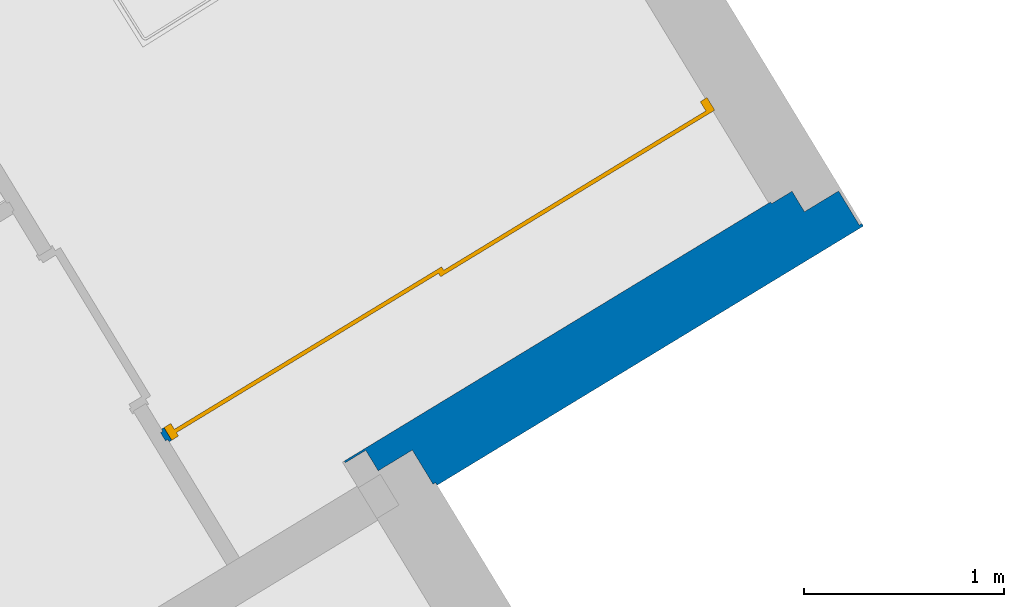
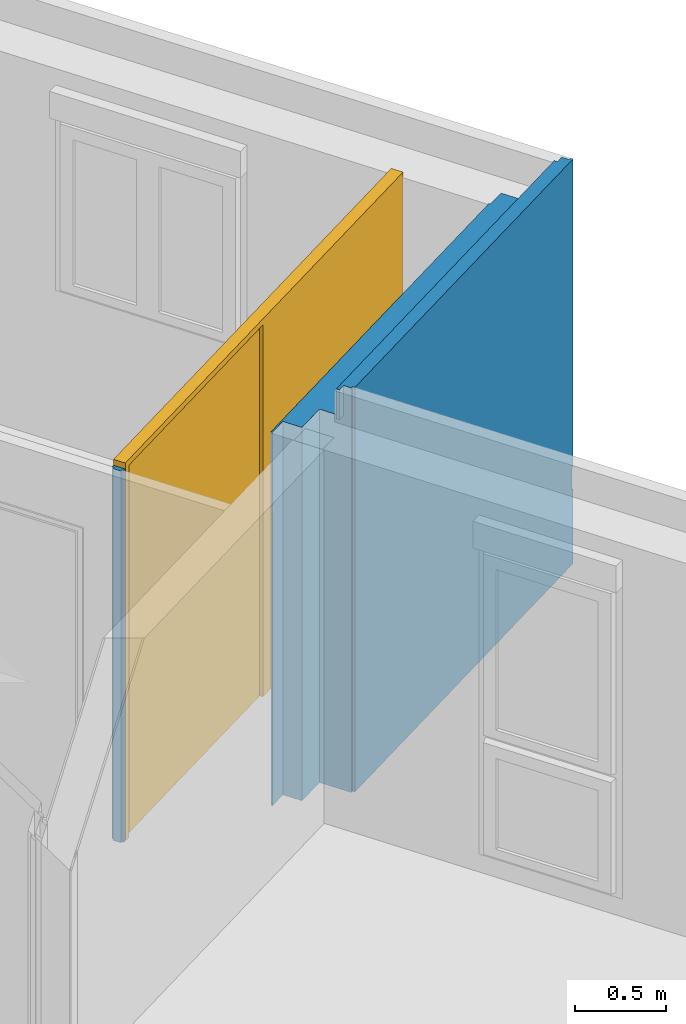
# One storey, part 56 of 90: 2 walls, 1 door, 1 opening.
"""IFC2X3 building model written with IfcOpenShell, lengths in metres."""

from ifc_helpers import new_model, entity, si_unit, converted_unit, derived_unit, money_unit, direction, frame, origin_with_axes, place, context, subcontext, project, spatial, faceted_brep, material, material_list, type_object, element, fill, save


model = new_model("IFC2X3")

# Units and contexts
model_context = context("Model", 3, precision=1e-05, world=origin_with_axes(), true_north=direction((0.0, 1.0)))
body_context = subcontext(model_context, "Body", "Model", "MODEL_VIEW")
ifc_project = project(units=[si_unit("LENGTHUNIT", "METRE"), si_unit("AREAUNIT", "SQUARE_METRE"), si_unit("VOLUMEUNIT", "CUBIC_METRE"), converted_unit("PLANEANGLEUNIT", "DEGREE", entity("IfcPlaneAngleMeasure", 0.0174532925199), si_unit("PLANEANGLEUNIT", "RADIAN"), dimensions=[0, 0, 0, 0, 0, 0, 0]), si_unit("SOLIDANGLEUNIT", "STERADIAN"), money_unit("EUR"), converted_unit("TIMEUNIT", "Year", entity("IfcTimeMeasure", 31556926.0), si_unit("TIMEUNIT", "SECOND"), dimensions=[0, 0, 1, 0, 0, 0, 0]), si_unit("MASSUNIT", "GRAM", prefix="KILO"), si_unit("THERMODYNAMICTEMPERATUREUNIT", "DEGREE_CELSIUS"), si_unit("LUMINOUSINTENSITYUNIT", "LUMEN"), si_unit("ENERGYUNIT", "JOULE", prefix="MEGA"), derived_unit("THERMALCONDUCTANCEUNIT", [(si_unit("POWERUNIT", "WATT"), 1), (si_unit("LENGTHUNIT", "METRE"), -1), (si_unit("THERMODYNAMICTEMPERATUREUNIT", "KELVIN"), -1)]), derived_unit("SPECIFICHEATCAPACITYUNIT", [(si_unit("ENERGYUNIT", "JOULE"), 1), (si_unit("MASSUNIT", "GRAM", prefix="KILO"), -1), (si_unit("THERMODYNAMICTEMPERATUREUNIT", "KELVIN"), -1)]), derived_unit("MASSDENSITYUNIT", [(si_unit("MASSUNIT", "GRAM", prefix="KILO"), 1), (si_unit("VOLUMEUNIT", "CUBIC_METRE"), -1)])], contexts=[model_context])

# Site, building, storey
site_placement = place(None, origin_with_axes())
site = spatial("IfcSite", under=ifc_project, at=site_placement, Name="Site", CompositionType="ELEMENT")
building_placement = place(site_placement, origin_with_axes())
building = spatial("IfcBuilding", under=site, at=building_placement, Name="Bâtiment", CompositionType="ELEMENT")
storey_placement = place(building_placement, frame((0.0, 0.0, 2.72), z_axis=(0.0, 0.0, 1.0), x_axis=(1.0, 0.0, 0.0)))
storey = spatial("IfcBuildingStorey", under=building, at=storey_placement, Name="R+1", CompositionType="ELEMENT", Elevation=2.72)

# Wall
ifc_material_1 = material(Name="Finition ext - Crépis")
ifc_material_2 = material(Name="Béton cellulaire")
ifc_material_3 = material(Name="Mortier")
ifc_material_4 = material(Name="Isolation - Polystyrène expansé")
ifc_material_5 = material(Name="Bloc ELITHERM")
ifc_material_6 = material(Name="Isolation - Polystyrène extrudé")
ifc_material_7 = material(Name="Finition int - Plaque de plâtre")
ifc_material_list_1 = material_list([ifc_material_1, ifc_material_2, ifc_material_3, ifc_material_4, ifc_material_5, ifc_material_6, ifc_material_7])
wall_type_1 = type_object("IfcWallType", Name="Mur ALKERN + planelle 21 345 x 2720", PredefinedType="USERDEFINED")
wall_1_placement = place(storey_placement, frame((2.89401232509, 21.9500525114, 0.0), z_axis=(0.0, 0.0, 1.0), x_axis=(-0.854539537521, -0.519386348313, 0.0)))
element("IfcWall", 1, at=wall_1_placement, inside=storey, type_object=wall_type_1, material=ifc_material_list_1, Name="Mue bloc ALKERN isolé", ObjectType="SOLIDWALL", context=body_context, shape_type="Brep", body=[
    faceted_brep([(0.0150000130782, 0.0, 0.5), (0.0150000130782, 0.0, 0.65), (7.00355329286e-09, 0.0, 0.65), (7.00355329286e-09, 0.0, 2.72), (2.50000000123, 0.0, 2.71999999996), (2.50000000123, 0.0, 0.0), (7.00355329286e-09, 0.0, 0.0), (7.00355329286e-09, 0.0, 0.5), (0.0150000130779, -0.0149999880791, 0.5), (0.0150000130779, -0.0149999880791, 0.65), (7.00310209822e-09, -0.0149999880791, 0.65), (7.00310209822e-09, -0.0149999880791, 2.72), (2.50000000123, -0.0149999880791, 2.71999999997), (2.50000000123, -0.0149999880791, 0.0), (7.00310209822e-09, -0.0149999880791, 0.0), (7.00310209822e-09, -0.0149999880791, 0.5)], [[[0, 1, 2, 3, 4, 5, 6, 7]], [[1, 0, 8, 9]], [[10, 2, 1, 9]], [[2, 10, 11, 3]], [[11, 12, 4, 3]], [[5, 4, 12, 13]], [[6, 5, 13, 14]], [[15, 7, 6, 14]], [[0, 7, 15, 8]], [[8, 15, 14, 13, 12, 11, 10, 9]]]),
    faceted_brep([(0.0149999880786, -0.015, 2.51999999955), (0.0149999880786, -0.015, 2.72), (2.51500000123, -0.015, 2.71999999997), (2.51500000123, -0.015, 2.51999998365), (0.0149999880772, -0.0629999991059, 2.72), (0.0149999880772, -0.0629999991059, 2.51999999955), (2.51500000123, -0.0629999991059, 2.71999999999), (2.51500000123, -0.0629999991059, 2.51999998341)], [[[0, 1, 2, 3]], [[4, 1, 0, 5]], [[1, 4, 6, 2]], [[3, 2, 6, 7]], [[5, 0, 3, 7]], [[4, 5, 7, 6]]]),
    faceted_brep([(0.0149999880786, -0.015, 2.50999999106), (0.0149999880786, -0.015, 2.51999999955), (2.51500000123, -0.015, 2.51999998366), (2.51500000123, -0.015, 2.51000000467), (0.0149999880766, -0.0829999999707, 2.51999999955), (0.0149999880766, -0.0829999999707, 2.50999999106), (2.51500000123, -0.0829999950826, 2.51999998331), (2.51500000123, -0.0829999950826, 2.51000000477)], [[[0, 1, 2, 3]], [[4, 1, 0, 5]], [[1, 4, 6, 2]], [[3, 2, 6, 7]], [[5, 0, 3, 7]], [[4, 5, 7, 6]]]),
    faceted_brep([(2.56300000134, -0.0630000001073, 2.51999998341), (0.062999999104, -0.0630000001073, 2.51999999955), (0.062999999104, -0.0630000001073, 2.72), (2.56300000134, -0.0630000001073, 2.71999999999), (2.56300000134, -0.0829999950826, 2.51999998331), (0.0629999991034, -0.0830000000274, 2.51999999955), (0.0629999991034, -0.0830000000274, 2.72), (2.56300000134, -0.0829999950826, 2.72)], [[[0, 1, 2, 3]], [[4, 5, 1, 0]], [[5, 6, 2, 1]], [[3, 2, 6, 7]], [[4, 0, 3, 7]], [[7, 6, 5, 4]]]),
    faceted_brep([(0.0149999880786, -0.015, 0.0), (0.0149999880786, -0.015, 2.50999999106), (2.51500000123, -0.015, 2.51000000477), (2.51500000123, -0.015, 0.0), (0.0149999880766, -0.0829999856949, 2.50999999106), (0.0149999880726, -0.214999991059, 0.0), (0.0149999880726, -0.214999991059, 2.50999999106), (2.51500000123, -0.0829999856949, 2.51000000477), (2.51500000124, -0.214999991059, 2.51000000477), (2.51500000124, -0.214999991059, 0.0)], [[[0, 1, 2, 3]], [[4, 1, 0, 5, 6]], [[1, 4, 7, 2]], [[3, 2, 7, 8, 9]], [[5, 0, 3, 9]], [[6, 5, 9, 8]], [[4, 6, 8, 7]]]),
    faceted_brep([(2.71500001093, -0.215000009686, 0.0), (0.214999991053, -0.215000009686, 0.0), (0.214999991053, -0.215000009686, 2.50999999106), (2.71500001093, -0.215000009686, 2.51000000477), (2.71500001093, -0.335000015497, 0.0), (0.214999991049, -0.335000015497, 0.0), (0.214999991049, -0.335000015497, 2.50999999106), (2.71500001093, -0.335000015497, 2.51000000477)], [[[0, 1, 2, 3]], [[4, 5, 1, 0]], [[5, 6, 2, 1]], [[3, 2, 6, 7]], [[4, 0, 3, 7]], [[7, 6, 5, 4]]]),
    faceted_brep([(2.83500001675, -0.335000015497, 0.0), (0.335000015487, -0.335000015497, 0.0), (0.335000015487, -0.335000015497, 2.51), (2.83500001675, -0.335000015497, 2.51000000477), (2.83500001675, -0.344999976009, 0.0), (0.335000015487, -0.344999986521, 0.0), (0.335000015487, -0.344999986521, 2.51), (2.83500001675, -0.344999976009, 2.51000000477)], [[[0, 1, 2, 3]], [[4, 5, 1, 0]], [[5, 6, 2, 1]], [[3, 2, 6, 7]], [[4, 0, 3, 7]], [[7, 6, 5, 4]]]),
])

# Wall, opening, door
ifc_material_8 = material(Name="Isolation - Laine de roche")
ifc_material_list_2 = material_list([ifc_material_7, ifc_material_8, ifc_material_7])
wall_type_2 = type_object("IfcWallType", Name="3 - Cloison 72mm Placostil 74", PredefinedType="USERDEFINED")
wall_2_placement = place(storey_placement, frame((-0.68715191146, 20.8939877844, 0.0), z_axis=(0.0, 0.0, 1.0), x_axis=(0.854539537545, 0.519386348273, 0.0)))
wall_2 = element("IfcWall", 2, at=wall_2_placement, inside=storey, type_object=wall_type_2, material=ifc_material_list_2, Name="Cloison Placostil 72/48", ObjectType="PARTITIONING", context=body_context, shape_type="Brep", body=[
    faceted_brep([(0.089, -0.013, 0.0), (0.089, -0.013, 2.5), (0.074, -0.013, 2.5), (0.074, -0.013, 0.0), (0.089, 0.0, 2.5), (0.089, 0.0, 0.0), (0.074, 0.0, 2.5), (0.074, 0.0, 0.0)], [[[0, 1, 2, 3]], [[4, 1, 0, 5]], [[1, 4, 6, 2]], [[2, 6, 7, 3]], [[5, 0, 3, 7]], [[4, 5, 7, 6]]]),
    faceted_brep([(0.089, -0.061, 0.0), (0.089, -0.061, 2.5), (0.061, -0.061, 2.5), (0.061, -0.061, 0.0), (0.089, -0.013, 2.5), (0.089, -0.013, 0.0), (0.061, -0.013, 2.5), (0.061, -0.013, 0.0)], [[[0, 1, 2, 3]], [[4, 1, 0, 5]], [[1, 4, 6, 2]], [[2, 6, 7, 3]], [[5, 0, 3, 7]], [[4, 5, 7, 6]]]),
    faceted_brep([(0.089, -0.074, 0.0), (0.089, -0.074, 2.5), (0.074, -0.074, 2.5), (0.074, -0.074, 0.0), (0.089, -0.061, 2.5), (0.089, -0.061, 0.0), (0.074, -0.061, 2.5), (0.074, -0.061, 0.0)], [[[0, 1, 2, 3]], [[4, 1, 0, 5]], [[1, 4, 6, 2]], [[2, 6, 7, 3]], [[5, 0, 3, 7]], [[4, 5, 7, 6]]]),
])
opening_placement = place(wall_2_placement, frame((1.68137600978, 0.0, 0.0), z_axis=(0.0, 0.0, 1.0), x_axis=(1.0, 0.0, 0.0)))
opening = element("IfcOpeningElement", 3, at=opening_placement, cuts=wall_2, Name="Por-002", context=body_context, shape_type="Brep", body=[
    faceted_brep([(1.59237600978, -0.074, 0.0), (-1.59237600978, -0.074, 0.0), (-1.59237600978, 0.074, 0.0), (1.59237600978, 0.074, 0.0), (1.59237600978, -0.074, 2.54), (-1.59237600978, -0.074, 2.54), (-1.59237600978, 0.074, 2.54), (1.59237600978, 0.074, 2.54)], [[[0, 1, 2, 3]], [[0, 4, 5, 1]], [[1, 5, 6, 2]], [[3, 2, 6, 7]], [[4, 0, 3, 7]], [[5, 4, 7, 6]]]),
])
door_style = type_object("IfcDoorStyle", Name="Porte int générique 2019", ConstructionType="NOTDEFINED", OperationType="USERDEFINED", ParameterTakesPrecedence=False, Sizeable=False)
door_placement = place(opening_placement, frame((1.55237600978, 0.0, 0.0), z_axis=(0.0, 0.0, 1.0), x_axis=(-1.0, 0.0, 0.0)))
door = element("IfcDoor", 4, at=door_placement, inside=storey, type_object=door_style, Name="Por-002", ObjectType="DOOR", OverallHeight=2.5, OverallWidth=3.10475, context=body_context, shape_type="Brep", body=[
    faceted_brep([(-0.04, 0.074, 0.0), (-0.04, 0.074, 2.54), (3.14475201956, 0.074, 2.54), (3.14475201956, 0.074, 0.0), (3.10475201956, 0.074, 0.0), (3.10475201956, 0.074, 2.5), (0.0, 0.074, 2.5), (0.0, 0.074, 0.0), (-0.04, 0.0, 0.0), (-0.04, 0.0, 2.54), (3.14475201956, 0.0, 2.54), (3.14475201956, 0.0, 0.0), (3.10475201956, 0.0, 0.0), (3.10475201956, 0.0, 2.5), (0.0, 0.0, 2.5), (0.0, 0.0, 0.0)], [[[0, 1, 2, 3, 4, 5, 6, 7]], [[8, 9, 1, 0]], [[9, 10, 2, 1]], [[10, 11, 3, 2]], [[3, 11, 12, 4]], [[5, 4, 12, 13]], [[6, 5, 13, 14]], [[7, 6, 14, 15]], [[0, 7, 15, 8]], [[15, 14, 13, 12, 11, 10, 9, 8]]]),
    faceted_brep([(0.0, 0.074, 0.0), (1.56737600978, 0.074, 0.0), (1.56737600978, 0.054, 0.0), (0.0, 0.054, 0.0), (0.0, 0.074, 2.5), (1.56737600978, 0.074, 2.5), (1.56737600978, 0.054, 2.5), (0.0, 0.054, 2.5)], [[[0, 1, 2, 3]], [[0, 4, 5, 1]], [[1, 5, 6, 2]], [[3, 2, 6, 7]], [[4, 0, 3, 7]], [[5, 4, 7, 6]]]),
    faceted_brep([(1.53737600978, 0.054, 0.0), (3.10475201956, 0.054, 0.0), (3.10475201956, 0.034, 0.0), (1.53737600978, 0.034, 0.0), (1.53737600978, 0.054, 2.5), (3.10475201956, 0.054, 2.5), (3.10475201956, 0.034, 2.5), (1.53737600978, 0.034, 2.5)], [[[0, 1, 2, 3]], [[0, 4, 5, 1]], [[1, 5, 6, 2]], [[3, 2, 6, 7]], [[4, 0, 3, 7]], [[5, 4, 7, 6]]]),
])
fill(opening, door)

save(model, "model.ifc")
